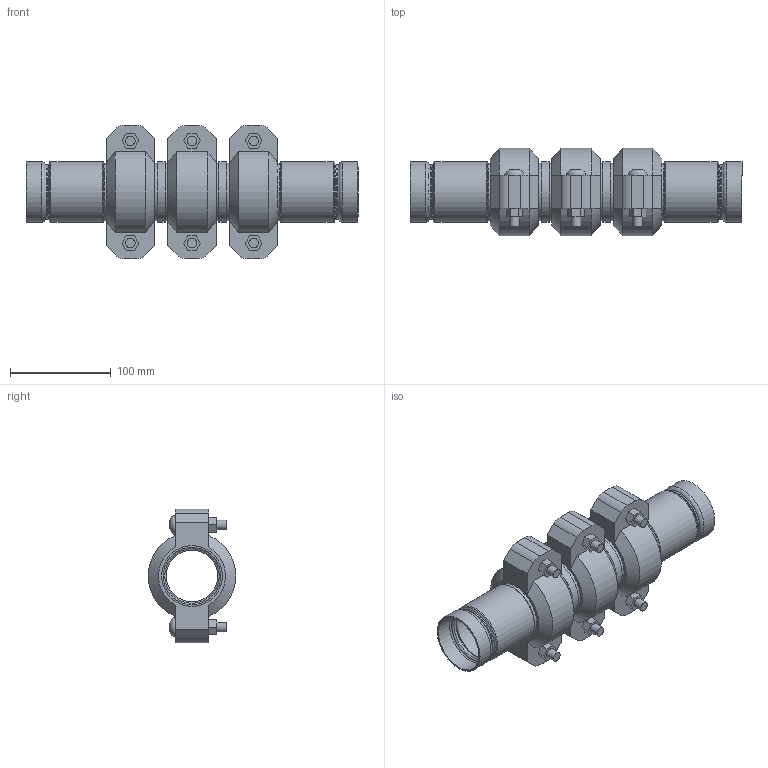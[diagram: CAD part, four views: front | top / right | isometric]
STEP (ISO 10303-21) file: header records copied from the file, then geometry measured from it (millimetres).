
FILE_DESCRIPTION(/* description */ ('VIC STRENGTHIN 100 EXPANSION JOINT 3 COUPLINGS EXPANDED STYLE E155 (ST1)','CAx-IF Rec.Pracs.---Representation and Presentation of Product Manufacturing Information (PMI)---4.0---2014-10-13'),/* implementation_level */ '2;1');
FILE_NAME(/* name */ 'C:\Users\Vjadhav\AppData\Roaming\Autodesk\ApplicationPlugins\Victaulic.Temp\A946\Victaulic_SS-StrengThin 100_Expansion Joint_Expanded_3 Couplings_Style E155 (ST1)_2 (50).stp',/* time_stamp */ '2021-07-23T19:28:01+06:00',/* author */ ('kkamble'),/* organization */ ('Victaulic'),/* preprocessor_version */ 'ST-DEVELOPER v17.2',/* originating_system */ 'Autodesk Inventor 2019',/* authorisation */ '');
FILE_SCHEMA (('AP242_MANAGED_MODEL_BASED_3D_ENGINEERING_MIM_LF { 1 0 10303 442 1 1 4 }'));
Length unit declared in the file: inch
Products named in the file (4): E155-02.0; E494G-02.0; Nipple-02.0; 075-02.0
Assembly tree (7 placements, depth 2):
  E155-02.0
    E494G-02.0  x2
    Nipple-02.0  x2
    075-02.0  x3
Bounding box: 329.95 x 87.12 x 132.59 mm (x, y, z)
Volume: 732940.1 mm3; surface area: 243394.3 mm2
Topology: 7 solids, 13 shells, 263 faces, 681 edges, 484 vertices
Faces by surface type: plane 132, cylinder 77, torus 32, cone 16, bspline 6
Full cylindrical faces by diameter (mm): 9.525 x12, 11.43 x6, 51.13 x2, 52.502 x2, 53.95 x2, 53.975 x3, 54.331 x2, 57.125 x6, 57.15 x6, 60.325 x18
Entity records: 3718 total; most frequent: DIRECTION 657, CARTESIAN_POINT 653, ORIENTED_EDGE 548, AXIS2_PLACEMENT_3D 279, EDGE_CURVE 274, VERTEX_POINT 197, CIRCLE 167, EDGE_LOOP 129
